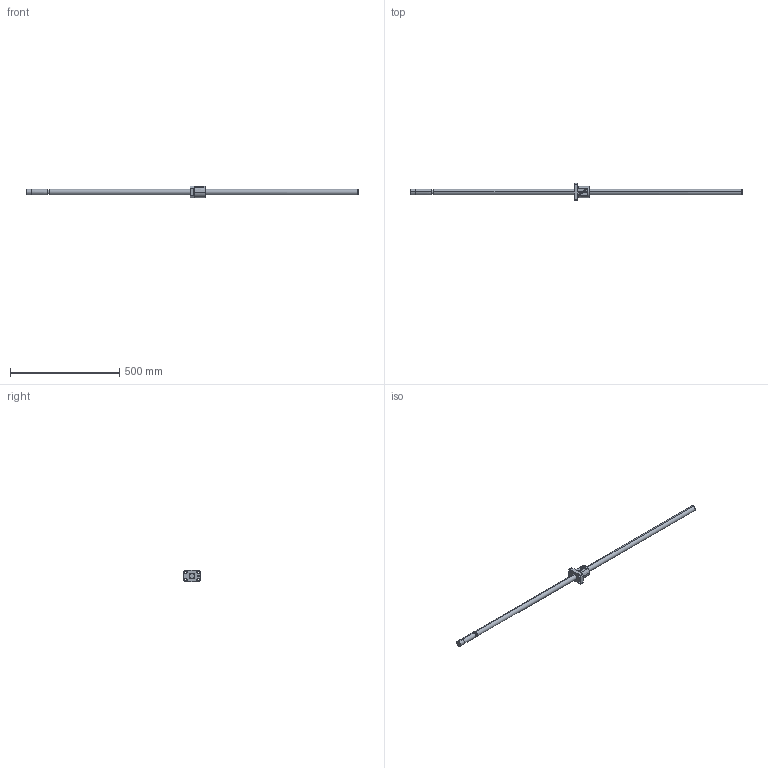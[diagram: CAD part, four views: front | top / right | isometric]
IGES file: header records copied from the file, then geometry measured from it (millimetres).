
Global section: file name: No Iges File Name specified; native system: AutoDesk Inventor R10; preprocessor: AutoDesk Inventor Iges Exporter R10; author: No Author specified; organization: No Organization specified; date: 20101224.142057; units: millimetre
Bounding box: 1520 x 78 x 52 mm (x, y, z)
Surface area: 148696 mm2 (no closed solid volume)
Topology: 0 solids, 0 shells, 136 faces, 970 edges, 968 vertices
Faces by surface type: bspline 136
